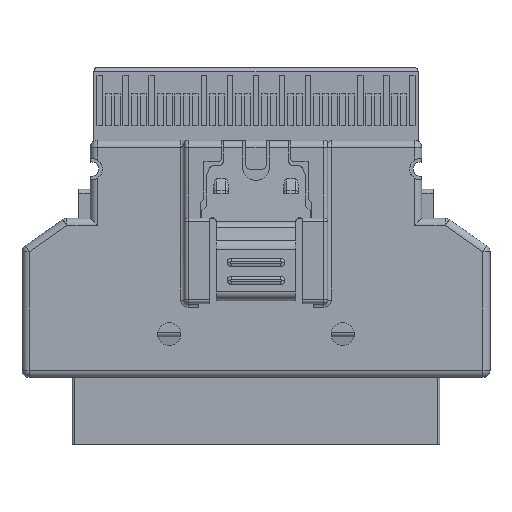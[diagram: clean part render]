
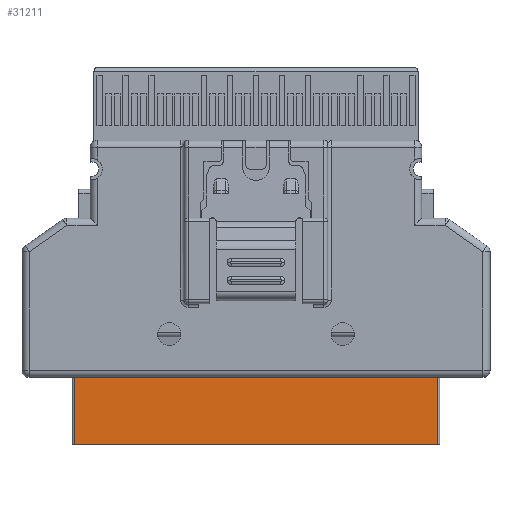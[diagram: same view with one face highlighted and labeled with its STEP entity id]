
A CAD part, top view. The second image highlights one B-rep face of the part: STEP entity #31211.
In plain terms, the highlighted planar face has unit normal (0, 0, 1) as drawn and (0, 1, 0) by its records, which use the part's own axes.
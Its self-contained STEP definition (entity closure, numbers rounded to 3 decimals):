
#30513=DIRECTION('',(0.,0.,1.));
#30514=VECTOR('',#30513,25.11);
#30515=CARTESIAN_POINT('',(-8.5,0.66,-12.555));
#30516=LINE('',#30515,#30514);
#30680=DIRECTION('',(0.,0.,-1.));
#30681=VECTOR('',#30680,25.11);
#30682=CARTESIAN_POINT('',(-2.441,0.66,12.555));
#30683=LINE('',#30682,#30681);
#30684=DIRECTION('',(-1.,0.,0.));
#30685=VECTOR('',#30684,6.059);
#30686=CARTESIAN_POINT('',(-2.441,0.66,-12.555));
#30687=LINE('',#30686,#30685);
#30823=DIRECTION('',(1.,0.,0.));
#30824=VECTOR('',#30823,6.059);
#30825=CARTESIAN_POINT('',(-8.5,0.66,12.555));
#30826=LINE('',#30825,#30824);
#30847=CARTESIAN_POINT('',(-8.5,0.66,-12.555));
#30848=VERTEX_POINT('',#30847);
#30849=CARTESIAN_POINT('',(-8.5,0.66,12.555));
#30850=VERTEX_POINT('',#30849);
#30881=CARTESIAN_POINT('',(-2.441,0.66,12.555));
#30882=VERTEX_POINT('',#30881);
#30903=CARTESIAN_POINT('',(-2.441,0.66,-12.555));
#30904=VERTEX_POINT('',#30903);
#31198=CARTESIAN_POINT('',(-10.,0.66,0.64));
#31199=DIRECTION('',(0.,1.,0.));
#31200=DIRECTION('',(0.,0.,1.));
#31201=AXIS2_PLACEMENT_3D('',#31198,#31199,#31200);
#31202=PLANE('',#31201);
#31203=ORIENTED_EDGE('',*,*,#30951,.F.);
#31205=ORIENTED_EDGE('',*,*,#31204,.F.);
#31206=ORIENTED_EDGE('',*,*,#31191,.F.);
#31208=ORIENTED_EDGE('',*,*,#31207,.F.);
#31209=EDGE_LOOP('',(#31203,#31205,#31206,#31208));
#31210=FACE_OUTER_BOUND('',#31209,.F.);
#31211=ADVANCED_FACE('',(#31210),#31202,.T.);
#30951=EDGE_CURVE('',#30848,#30850,#30516,.T.);
#31191=EDGE_CURVE('',#30882,#30904,#30683,.T.);
#31204=EDGE_CURVE('',#30904,#30848,#30687,.T.);
#31207=EDGE_CURVE('',#30850,#30882,#30826,.T.);
